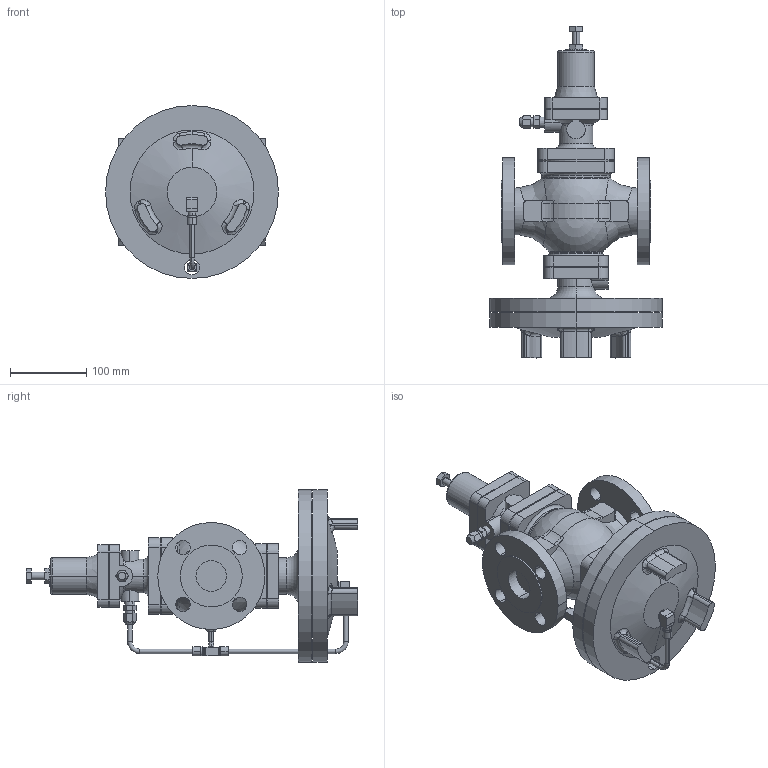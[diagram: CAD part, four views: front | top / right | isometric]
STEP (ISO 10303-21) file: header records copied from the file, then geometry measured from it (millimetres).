
FILE_DESCRIPTION (( 'STEP AP203' ), '1' );
FILE_NAME ('GPR-2000 JIS20K 40A.STEP', '2025-12-05T02:31:08', ( '' ), ( '' ), 'SwSTEP 2.0', 'SolidWorks 2024', '' );
FILE_SCHEMA (( 'CONFIG_CONTROL_DESIGN' ));
Length unit declared in the file: millimetre
Products named in the file (8): Pipe C 32-40A; Tee; GPR-2000 Body Assy EN 40A; Joint; GP-2000 Pipe A 32-40A; Pipe B 32-40A; GPR-2000 JIS20K 40A; Elbow
Assembly tree (9 placements, depth 2):
  GPR-2000 JIS20K 40A
    GPR-2000 Body Assy EN 40A
    Tee
    Pipe B 32-40A
    Joint  x3
    GP-2000 Pipe A 32-40A
    Pipe C 32-40A
    Elbow
Bounding box: 226 x 434 x 226 mm (x, y, z)
Volume: 4211981.2 mm3; surface area: 403993.6 mm2
Topology: 9 solids, 9 shells, 483 faces, 1212 edges, 791 vertices
Faces by surface type: plane 197, cylinder 191, torus 40, cone 27, bspline 24, sphere 4
Entity records: 17426 total; most frequent: CARTESIAN_POINT 6095, DIRECTION 2248, ORIENTED_EDGE 2140, EDGE_CURVE 1070, AXIS2_PLACEMENT_3D 890, VERTEX_POINT 691, EDGE_LOOP 503, LINE 468
